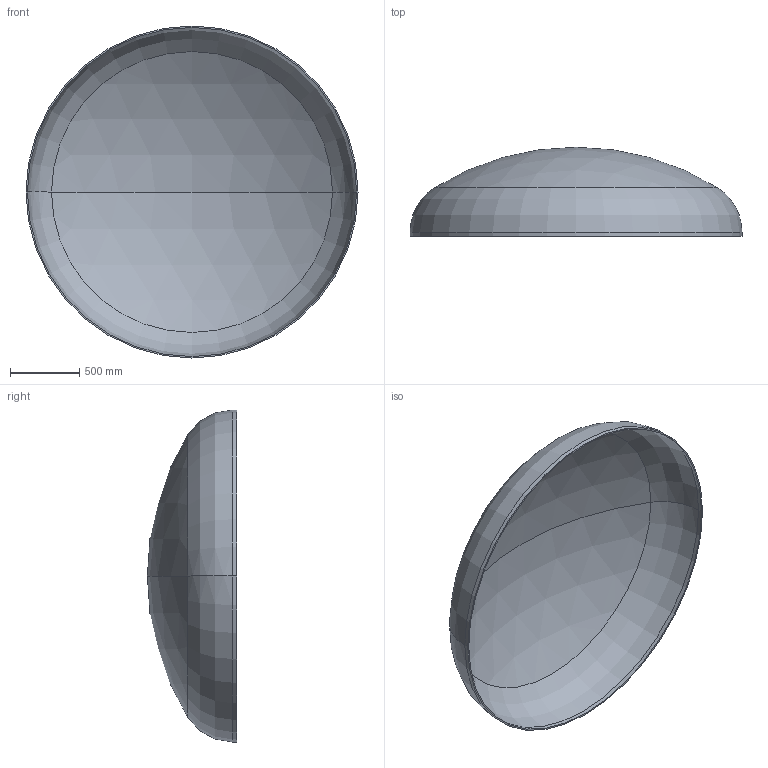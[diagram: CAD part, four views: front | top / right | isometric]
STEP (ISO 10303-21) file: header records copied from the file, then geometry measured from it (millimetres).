
FILE_DESCRIPTION (( 'STEP AP203' ), '1' );
FILE_NAME ('DIN 28013 Korbbogenform_-_Boden DIN 28013 - 2400 x 30 - I - s=10.step', '2016-07-01T15:04:18', ( '' ), ( '' ), 'SwSTEP 2.0', 'SolidWorks 2013', '' );
FILE_SCHEMA (( 'CONFIG_CONTROL_DESIGN' ));
Length unit declared in the file: millimetre
Products named in the file (1): DIN 28013 Korbbogenform_-_Boden DIN 28013 - 2400 x 30 - I - s=10
Bounding box: 2400 x 644.67 x 2400 mm (x, y, z)
Volume: 64579751.8 mm3; surface area: 12991238.7 mm2
Topology: 1 solids, 1 shells, 13 faces, 24 edges, 14 vertices
Faces by surface type: torus 4, cylinder 4, sphere 4, plane 1
Entity records: 407 total; most frequent: DIRECTION 72, CARTESIAN_POINT 52, ORIENTED_EDGE 48, AXIS2_PLACEMENT_3D 34, EDGE_CURVE 24, CIRCLE 20, EDGE_LOOP 14, VERTEX_POINT 14
